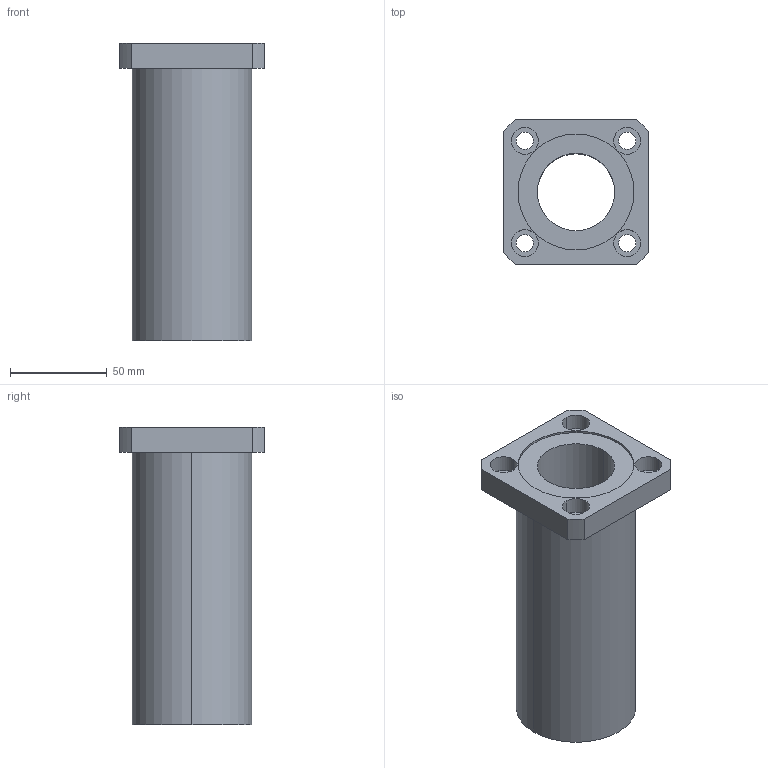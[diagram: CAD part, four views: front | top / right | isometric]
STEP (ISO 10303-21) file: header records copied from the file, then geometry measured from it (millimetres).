
FILE_DESCRIPTION((''),'2;1');
FILE_NAME('C:\Documents and Settings\ｿﾀﾀ蠑ｷ1\ｹﾙﾅﾁ ﾈｭｸ饅\ｺﾎﾇｰﾆﾄﾀﾏ\ﾁｦﾇｰ\LMEK__LUU\LMEK40LUU.stp','2005-06-15T11:02:28',('ｿﾀﾀ蠑ｷ1'),(''),'Autodesk Inventor 9','Autodesk Inventor 9','');
FILE_SCHEMA(('AUTOMOTIVE_DESIGN { 1 0 10303 214 1 1 1 1 }'));
Length unit declared in the file: millimetre
Products named in the file (1): LMEK__(L)
Bounding box: 75 x 75 x 154 mm (x, y, z)
Volume: 294865.2 mm3; surface area: 60764.8 mm2
Topology: 1 solids, 1 shells, 41 faces, 96 edges, 64 vertices
Faces by surface type: bspline 20, cylinder 12, plane 9
Entity records: 1457 total; most frequent: CARTESIAN_POINT 486, DIRECTION 196, ORIENTED_EDGE 192, EDGE_CURVE 96, AXIS2_PLACEMENT_3D 78, VERTEX_POINT 64, EDGE_LOOP 58, CIRCLE 56
